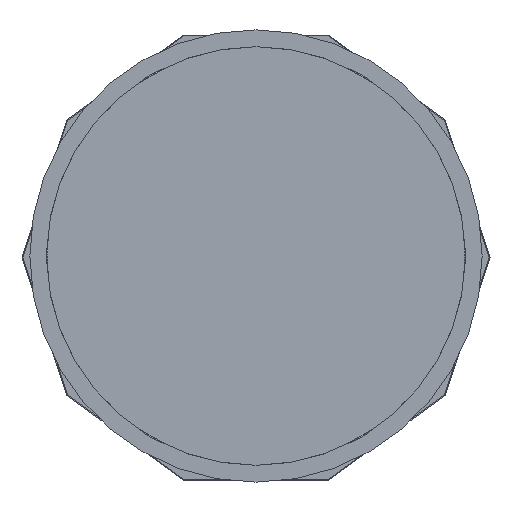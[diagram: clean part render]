
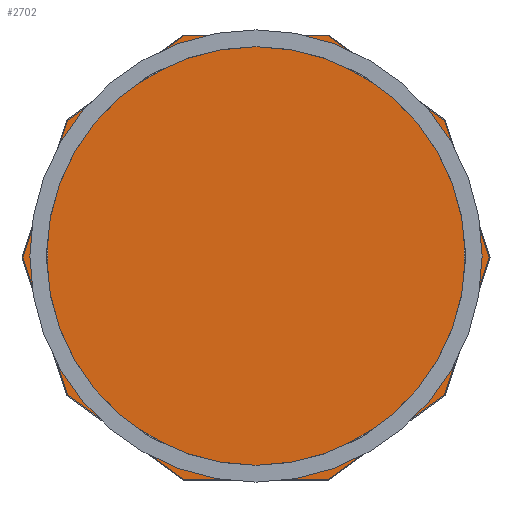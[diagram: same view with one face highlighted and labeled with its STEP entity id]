
A CAD part, front view. The second image highlights one B-rep face of the part: STEP entity #2702.
In plain terms, the highlighted planar face has unit normal (0, -1, 0).
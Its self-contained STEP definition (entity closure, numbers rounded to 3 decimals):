
#2196=DIRECTION('',(0.309,0.,-0.951));
#2197=VECTOR('',#2196,342.465);
#2198=CARTESIAN_POINT('',(-554.121,52.75,-4.));
#2199=LINE('',#2198,#2197);
#2204=DIRECTION('',(-0.309,0.,-0.951));
#2205=VECTOR('',#2204,342.465);
#2206=CARTESIAN_POINT('',(-448.293,52.75,321.704));
#2207=LINE('',#2206,#2205);
#2212=DIRECTION('',(-0.809,0.,-0.588));
#2213=VECTOR('',#2212,342.465);
#2214=CARTESIAN_POINT('',(-171.233,52.75,523.));
#2215=LINE('',#2214,#2213);
#2220=DIRECTION('',(-1.,0.,0.));
#2221=VECTOR('',#2220,342.465);
#2222=CARTESIAN_POINT('',(171.233,52.75,523.));
#2223=LINE('',#2222,#2221);
#2228=DIRECTION('',(-0.809,0.,0.588));
#2229=VECTOR('',#2228,342.465);
#2230=CARTESIAN_POINT('',(448.293,52.75,321.704));
#2231=LINE('',#2230,#2229);
#2236=DIRECTION('',(-0.309,0.,0.951));
#2237=VECTOR('',#2236,342.465);
#2238=CARTESIAN_POINT('',(554.121,52.75,-4.));
#2239=LINE('',#2238,#2237);
#2244=DIRECTION('',(0.309,0.,0.951));
#2245=VECTOR('',#2244,342.465);
#2246=CARTESIAN_POINT('',(448.293,52.75,-329.704));
#2247=LINE('',#2246,#2245);
#2252=DIRECTION('',(0.809,0.,0.588));
#2253=VECTOR('',#2252,342.465);
#2254=CARTESIAN_POINT('',(171.233,52.75,-531.));
#2255=LINE('',#2254,#2253);
#2260=DIRECTION('',(1.,0.,0.));
#2261=VECTOR('',#2260,342.465);
#2262=CARTESIAN_POINT('',(-171.233,52.75,-531.));
#2263=LINE('',#2262,#2261);
#2268=DIRECTION('',(0.809,0.,-0.588));
#2269=VECTOR('',#2268,342.465);
#2270=CARTESIAN_POINT('',(-448.293,52.75,-329.704));
#2271=LINE('',#2270,#2269);
#2377=CARTESIAN_POINT('',(-554.121,52.75,-4.));
#2378=CARTESIAN_POINT('',(-448.293,52.75,-329.704));
#2379=VERTEX_POINT('',#2377);
#2380=VERTEX_POINT('',#2378);
#2381=CARTESIAN_POINT('',(-171.233,52.75,-531.));
#2382=VERTEX_POINT('',#2381);
#2383=CARTESIAN_POINT('',(171.233,52.75,-531.));
#2384=VERTEX_POINT('',#2383);
#2385=CARTESIAN_POINT('',(448.293,52.75,-329.704));
#2386=VERTEX_POINT('',#2385);
#2387=CARTESIAN_POINT('',(554.121,52.75,-4.));
#2388=VERTEX_POINT('',#2387);
#2389=CARTESIAN_POINT('',(448.293,52.75,321.704));
#2390=VERTEX_POINT('',#2389);
#2391=CARTESIAN_POINT('',(171.233,52.75,523.));
#2392=VERTEX_POINT('',#2391);
#2393=CARTESIAN_POINT('',(-171.233,52.75,523.));
#2394=VERTEX_POINT('',#2393);
#2395=CARTESIAN_POINT('',(-448.293,52.75,321.704));
#2396=VERTEX_POINT('',#2395);
#2676=CARTESIAN_POINT('',(0.,52.75,0.));
#2677=DIRECTION('',(0.,1.,0.));
#2678=DIRECTION('',(1.,0.,0.));
#2679=AXIS2_PLACEMENT_3D('',#2676,#2677,#2678);
#2680=PLANE('',#2679);
#2681=ORIENTED_EDGE('',*,*,#2666,.F.);
#2683=ORIENTED_EDGE('',*,*,#2682,.F.);
#2685=ORIENTED_EDGE('',*,*,#2684,.F.);
#2687=ORIENTED_EDGE('',*,*,#2686,.F.);
#2689=ORIENTED_EDGE('',*,*,#2688,.F.);
#2691=ORIENTED_EDGE('',*,*,#2690,.F.);
#2693=ORIENTED_EDGE('',*,*,#2692,.F.);
#2695=ORIENTED_EDGE('',*,*,#2694,.F.);
#2697=ORIENTED_EDGE('',*,*,#2696,.F.);
#2699=ORIENTED_EDGE('',*,*,#2698,.F.);
#2700=EDGE_LOOP('',(#2681,#2683,#2685,#2687,#2689,#2691,#2693,#2695,#2697,
#2699));
#2701=FACE_OUTER_BOUND('',#2700,.F.);
#2666=EDGE_CURVE('',#2379,#2380,#2199,.T.);
#2682=EDGE_CURVE('',#2396,#2379,#2207,.T.);
#2684=EDGE_CURVE('',#2394,#2396,#2215,.T.);
#2686=EDGE_CURVE('',#2392,#2394,#2223,.T.);
#2688=EDGE_CURVE('',#2390,#2392,#2231,.T.);
#2690=EDGE_CURVE('',#2388,#2390,#2239,.T.);
#2692=EDGE_CURVE('',#2386,#2388,#2247,.T.);
#2694=EDGE_CURVE('',#2384,#2386,#2255,.T.);
#2696=EDGE_CURVE('',#2382,#2384,#2263,.T.);
#2698=EDGE_CURVE('',#2380,#2382,#2271,.T.);
#2702=ADVANCED_FACE('',(#2701),#2680,.F.);
